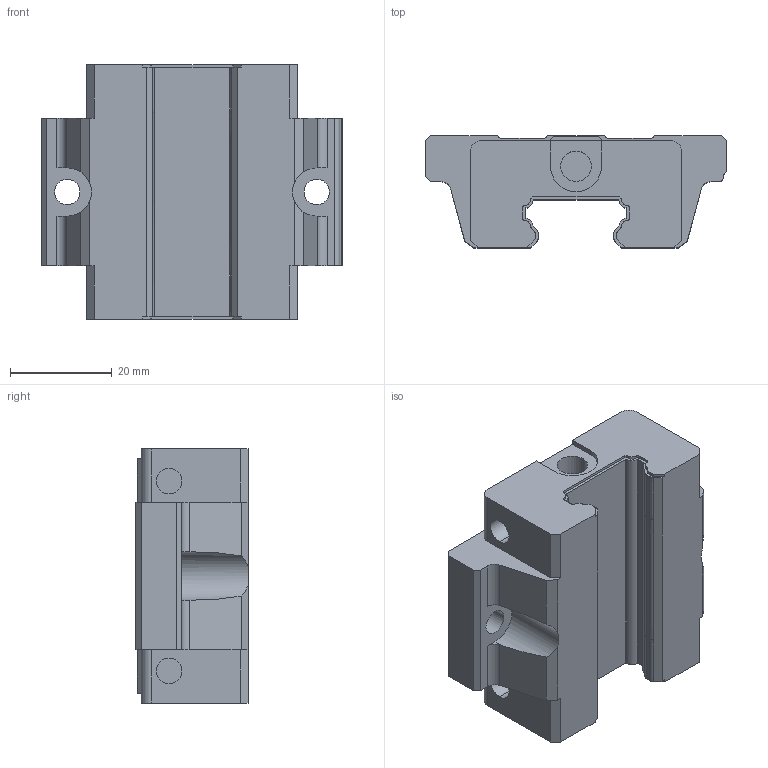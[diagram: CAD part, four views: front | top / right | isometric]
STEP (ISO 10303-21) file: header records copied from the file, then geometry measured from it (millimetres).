
FILE_DESCRIPTION((''),'2;1');
FILE_NAME('QEW20SA_BLOCK','2008-07-11T',('brianyu'),(''),'PRO/ENGINEER BY PARAMETRIC TECHNOLOGY CORPORATION, 2004360','PRO/ENGINEER BY PARAMETRIC TECHNOLOGY CORPORATION, 2004360','');
FILE_SCHEMA(('CONFIG_CONTROL_DESIGN'));
Length unit declared in the file: millimetre
Products named in the file (1): QEW20SA_BLOCK
Bounding box: 59 x 22 x 50 mm (x, y, z)
Volume: 40454.3 mm3; surface area: 11233.9 mm2
Topology: 1 solids, 1 shells, 203 faces, 597 edges, 406 vertices
Faces by surface type: plane 105, cylinder 81, extrusion 17
Entity records: 7025 total; most frequent: CARTESIAN_POINT 1442, ORIENTED_EDGE 1194, DIRECTION 1118, EDGE_CURVE 597, VECTOR 418, VERTEX_POINT 406, LINE 401, AXIS2_PLACEMENT_3D 350
